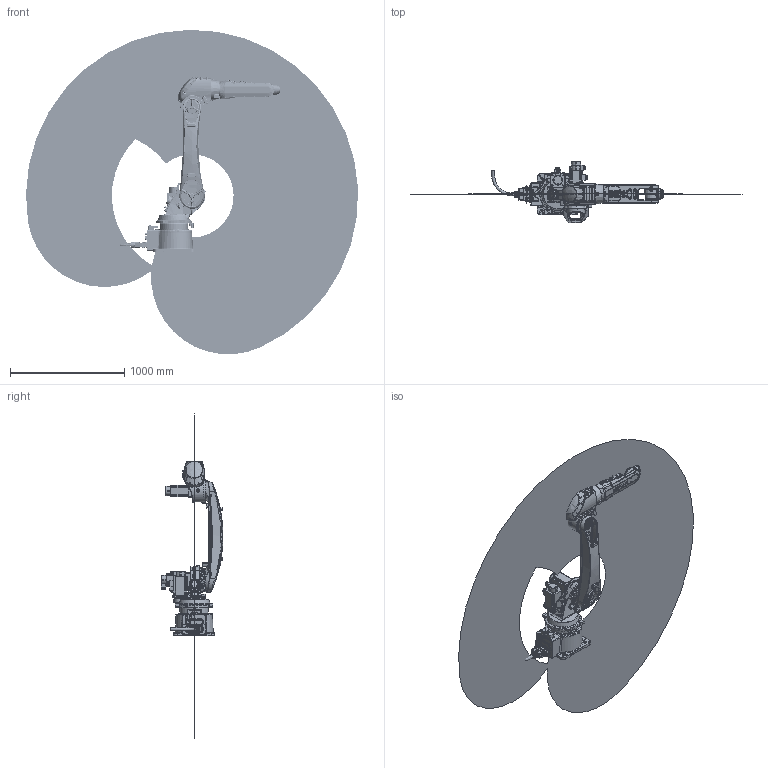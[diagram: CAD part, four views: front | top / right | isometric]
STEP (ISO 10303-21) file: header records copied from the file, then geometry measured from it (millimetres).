
FILE_DESCRIPTION(/* description */ (''),/* implementation_level */ '2;1');
FILE_NAME(/* name */ 'XB25s-R1617-XBC3线束 简化模型(20220426).stp',/* time_stamp */ '2022-04-26T16:08:39+08:00',/* author */ (''),/* organization */ (''),/* preprocessor_version */ 'ST-DEVELOPER v16',/* originating_system */ 'SIEMENS PLM Software NX 10.0',/* authorisation */ '');
FILE_SCHEMA (('CONFIG_CONTROL_DESIGN'));
Products named in the file (9): XB25-3Dwork-A; XB16&20&25-shuchu-A; XB25-xiaobiqian-Alogo; XB16&20&25-shouwan-A; XB16&20&25-xiaobihou-A; XB20&25-dabi-A; XB16&20&25-yao-A; XB16&20&25-base-A; XB25s-R1617-XBC3线束 简化模型(
20220426)
Assembly tree (8 placements, depth 2):
  XB25s-R1617-XBC3线束 简化模型(
20220426)
    XB16&20&25-base-A
    XB16&20&25-yao-A
    XB20&25-dabi-A
    XB16&20&25-xiaobihou-A
    XB16&20&25-shouwan-A
    XB25-xiaobiqian-Alogo
    XB16&20&25-shuchu-A
    XB25-3Dwork-A
Bounding box: 2911.95 x 541.74 x 2844.19 mm (x, y, z)
Volume: 71516335.1 mm3; surface area: 8702789.5 mm2
Topology: 8 solids, 34 shells, 6498 faces, 15987 edges, 9897 vertices
Faces by surface type: plane 2382, cylinder 1561, bspline 1304, cone 431, torus 362, extrusion 332, sphere 126
Full cylindrical faces by diameter (mm): 2.5 x4, 3 x4, 3.3 x6, 4.2 x8, 4.75 x4, 5 x20, 5.1 x4, 5.5 x42, 5.6 x15, 6 x1, 6.6 x2, 6.725 x4, 6.8 x20, 7 x65, 7.782 x2, 8.5 x2, 9.728 x2, 9.732 x2, 10 x24, 10.272 x2, 10.3 x8, 11 x4, 11.2 x1, 12.42 x1, 13 x27, 13.5 x1, 14 x17, 15 x2, 16 x42, 18 x5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
Entity records: 250039 total; most frequent: CARTESIAN_POINT 110969, ORIENTED_EDGE 29345, DIRECTION 25945, EDGE_CURVE 14676, AXIS2_PLACEMENT_3D 9758, VERTEX_POINT 9502, EDGE_LOOP 7767, ADVANCED_FACE 6498
